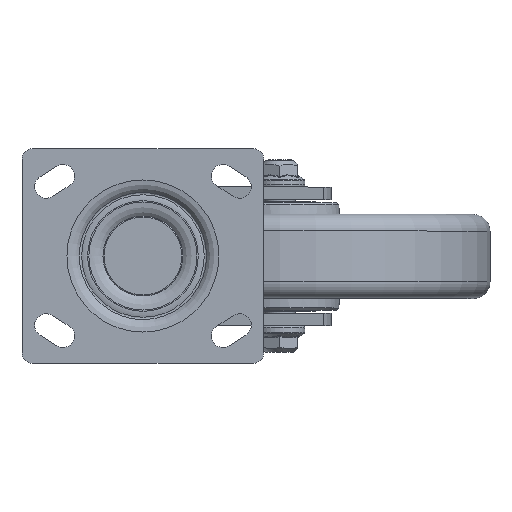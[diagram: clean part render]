
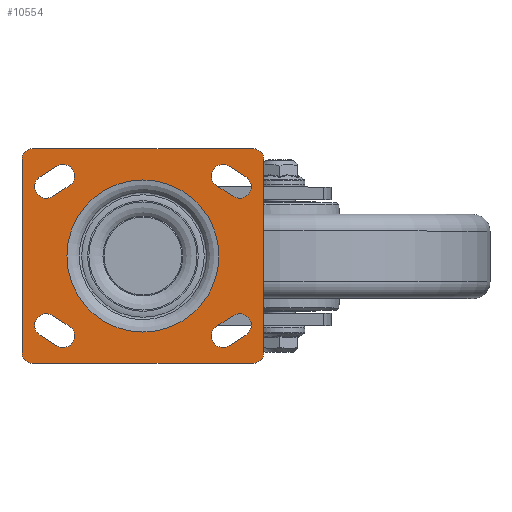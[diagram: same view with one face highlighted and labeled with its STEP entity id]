
A CAD part, top view. The second image highlights one B-rep face of the part: STEP entity #10554.
In plain terms, the highlighted planar face has unit normal (0, 0, 1).
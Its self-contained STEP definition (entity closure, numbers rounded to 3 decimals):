
#9700=CARTESIAN_POINT('',(264.348,-57.896,153.652));
#9701=VERTEX_POINT('',#9700);
#9708=CARTESIAN_POINT('',(159.348,-57.896,153.652));
#9709=VERTEX_POINT('',#9708);
#9710=CARTESIAN_POINT('',(159.348,-57.896,153.652));
#9711=DIRECTION('',(1.0,0.0,0.0));
#9712=VECTOR('',#9711,105.);
#9713=LINE('',#9710,#9712);
#9714=EDGE_CURVE('',#9709,#9701,#9713,.T.);
#9740=CARTESIAN_POINT('',(154.348,-52.896,153.652));
#9741=VERTEX_POINT('',#9740);
#9742=CARTESIAN_POINT('',(159.348,-52.896,153.652));
#9743=DIRECTION('',(0.0,0.0,1.0));
#9744=DIRECTION('',(1.0,0.0,0.0));
#9745=AXIS2_PLACEMENT_3D('',#9742,#9743,#9744);
#9746=CIRCLE('',#9745,5.);
#9747=EDGE_CURVE('',#9741,#9709,#9746,.T.);
#9772=CARTESIAN_POINT('',(154.348,39.104,153.652));
#9773=VERTEX_POINT('',#9772);
#9774=CARTESIAN_POINT('',(154.348,39.104,153.652));
#9775=DIRECTION('',(0.0,-1.0,0.0));
#9776=VECTOR('',#9775,92.);
#9777=LINE('',#9774,#9776);
#9778=EDGE_CURVE('',#9773,#9741,#9777,.T.);
#9804=CARTESIAN_POINT('',(159.348,44.104,153.652));
#9805=VERTEX_POINT('',#9804);
#9806=CARTESIAN_POINT('',(159.348,39.104,153.652));
#9807=DIRECTION('',(0.0,0.0,1.0));
#9808=DIRECTION('',(1.0,0.0,0.0));
#9809=AXIS2_PLACEMENT_3D('',#9806,#9807,#9808);
#9810=CIRCLE('',#9809,5.);
#9811=EDGE_CURVE('',#9805,#9773,#9810,.T.);
#9836=CARTESIAN_POINT('',(264.348,44.104,153.652));
#9837=VERTEX_POINT('',#9836);
#9838=CARTESIAN_POINT('',(264.348,44.104,153.652));
#9839=DIRECTION('',(-1.0,0.0,0.0));
#9840=VECTOR('',#9839,105.);
#9841=LINE('',#9838,#9840);
#9842=EDGE_CURVE('',#9837,#9805,#9841,.T.);
#9868=CARTESIAN_POINT('',(269.348,39.104,153.652));
#9869=VERTEX_POINT('',#9868);
#9870=CARTESIAN_POINT('',(264.348,39.104,153.652));
#9871=DIRECTION('',(0.0,0.0,1.0));
#9872=DIRECTION('',(1.0,0.0,0.0));
#9873=AXIS2_PLACEMENT_3D('',#9870,#9871,#9872);
#9874=CIRCLE('',#9873,5.);
#9875=EDGE_CURVE('',#9869,#9837,#9874,.T.);
#9900=CARTESIAN_POINT('',(269.348,-52.896,153.652));
#9901=VERTEX_POINT('',#9900);
#9902=CARTESIAN_POINT('',(269.348,-52.896,153.652));
#9903=DIRECTION('',(0.0,1.0,0.0));
#9904=VECTOR('',#9903,92.);
#9905=LINE('',#9902,#9904);
#9906=EDGE_CURVE('',#9901,#9869,#9905,.T.);
#9930=CARTESIAN_POINT('',(264.348,-52.896,153.652));
#9931=DIRECTION('',(0.0,0.0,1.0));
#9932=DIRECTION('',(1.0,0.0,0.0));
#9933=AXIS2_PLACEMENT_3D('',#9930,#9931,#9932);
#9934=CIRCLE('',#9933,5.);
#9935=EDGE_CURVE('',#9701,#9901,#9934,.T.);
#9957=CARTESIAN_POINT('',(246.933,-40.232,153.652));
#9958=VERTEX_POINT('',#9957);
#9965=CARTESIAN_POINT('',(252.763,-49.56,153.652));
#9966=VERTEX_POINT('',#9965);
#9967=CARTESIAN_POINT('',(249.848,-44.896,153.652));
#9968=DIRECTION('',(0.0,0.0,-1.0));
#9969=DIRECTION('',(1.0,0.0,0.0));
#9970=AXIS2_PLACEMENT_3D('',#9967,#9968,#9969);
#9971=CIRCLE('',#9970,5.5);
#9972=EDGE_CURVE('',#9966,#9958,#9971,.T.);
#9997=CARTESIAN_POINT('',(260.763,-44.56,153.652));
#9998=VERTEX_POINT('',#9997);
#9999=CARTESIAN_POINT('',(260.763,-44.56,153.652));
#10000=DIRECTION('',(-0.848,-0.53,0.0));
#10001=VECTOR('',#10000,9.434);
#10002=LINE('',#9999,#10001);
#10003=EDGE_CURVE('',#9998,#9966,#10002,.T.);
#10029=CARTESIAN_POINT('',(254.933,-35.232,153.652));
#10030=VERTEX_POINT('',#10029);
#10031=CARTESIAN_POINT('',(257.848,-39.896,153.652));
#10032=DIRECTION('',(0.0,0.0,-1.0));
#10033=DIRECTION('',(1.0,0.0,0.0));
#10034=AXIS2_PLACEMENT_3D('',#10031,#10032,#10033);
#10035=CIRCLE('',#10034,5.5);
#10036=EDGE_CURVE('',#10030,#9998,#10035,.T.);
#10059=CARTESIAN_POINT('',(246.933,-40.232,153.652));
#10060=DIRECTION('',(0.848,0.53,0.));
#10061=VECTOR('',#10060,9.434);
#10062=LINE('',#10059,#10061);
#10063=EDGE_CURVE('',#9958,#10030,#10062,.T.);
#10085=CARTESIAN_POINT('',(176.763,26.44,153.652));
#10086=VERTEX_POINT('',#10085);
#10093=CARTESIAN_POINT('',(170.933,35.768,153.652));
#10094=VERTEX_POINT('',#10093);
#10095=CARTESIAN_POINT('',(173.848,31.104,153.652));
#10096=DIRECTION('',(0.0,0.0,-1.0));
#10097=DIRECTION('',(1.0,0.0,0.0));
#10098=AXIS2_PLACEMENT_3D('',#10095,#10096,#10097);
#10099=CIRCLE('',#10098,5.5);
#10100=EDGE_CURVE('',#10094,#10086,#10099,.T.);
#10125=CARTESIAN_POINT('',(162.933,30.768,153.652));
#10126=VERTEX_POINT('',#10125);
#10127=CARTESIAN_POINT('',(162.933,30.768,153.652));
#10128=DIRECTION('',(0.848,0.53,0.0));
#10129=VECTOR('',#10128,9.434);
#10130=LINE('',#10127,#10129);
#10131=EDGE_CURVE('',#10126,#10094,#10130,.T.);
#10157=CARTESIAN_POINT('',(168.763,21.44,153.652));
#10158=VERTEX_POINT('',#10157);
#10159=CARTESIAN_POINT('',(165.848,26.104,153.652));
#10160=DIRECTION('',(0.0,0.0,-1.0));
#10161=DIRECTION('',(1.0,0.0,0.0));
#10162=AXIS2_PLACEMENT_3D('',#10159,#10160,#10161);
#10163=CIRCLE('',#10162,5.5);
#10164=EDGE_CURVE('',#10158,#10126,#10163,.T.);
#10187=CARTESIAN_POINT('',(176.763,26.44,153.652));
#10188=DIRECTION('',(-0.848,-0.53,0.0));
#10189=VECTOR('',#10188,9.434);
#10190=LINE('',#10187,#10189);
#10191=EDGE_CURVE('',#10086,#10158,#10190,.T.);
#10213=CARTESIAN_POINT('',(170.933,-49.56,153.652));
#10214=VERTEX_POINT('',#10213);
#10221=CARTESIAN_POINT('',(176.763,-40.232,153.652));
#10222=VERTEX_POINT('',#10221);
#10223=CARTESIAN_POINT('',(173.848,-44.896,153.652));
#10224=DIRECTION('',(0.0,0.0,-1.0));
#10225=DIRECTION('',(1.0,0.0,0.0));
#10226=AXIS2_PLACEMENT_3D('',#10223,#10224,#10225);
#10227=CIRCLE('',#10226,5.5);
#10228=EDGE_CURVE('',#10222,#10214,#10227,.T.);
#10253=CARTESIAN_POINT('',(168.763,-35.232,153.652));
#10254=VERTEX_POINT('',#10253);
#10255=CARTESIAN_POINT('',(168.763,-35.232,153.652));
#10256=DIRECTION('',(0.848,-0.53,0.0));
#10257=VECTOR('',#10256,9.434);
#10258=LINE('',#10255,#10257);
#10259=EDGE_CURVE('',#10254,#10222,#10258,.T.);
#10285=CARTESIAN_POINT('',(162.933,-44.56,153.652));
#10286=VERTEX_POINT('',#10285);
#10287=CARTESIAN_POINT('',(165.848,-39.896,153.652));
#10288=DIRECTION('',(0.0,0.0,-1.0));
#10289=DIRECTION('',(1.0,0.0,0.0));
#10290=AXIS2_PLACEMENT_3D('',#10287,#10288,#10289);
#10291=CIRCLE('',#10290,5.5);
#10292=EDGE_CURVE('',#10286,#10254,#10291,.T.);
#10315=CARTESIAN_POINT('',(170.933,-49.56,153.652));
#10316=DIRECTION('',(-0.848,0.53,0.0));
#10317=VECTOR('',#10316,9.434);
#10318=LINE('',#10315,#10317);
#10319=EDGE_CURVE('',#10214,#10286,#10318,.T.);
#10341=CARTESIAN_POINT('',(252.763,35.768,153.652));
#10342=VERTEX_POINT('',#10341);
#10349=CARTESIAN_POINT('',(246.933,26.44,153.652));
#10350=VERTEX_POINT('',#10349);
#10351=CARTESIAN_POINT('',(249.848,31.104,153.652));
#10352=DIRECTION('',(0.0,0.0,-1.0));
#10353=DIRECTION('',(1.0,0.0,0.0));
#10354=AXIS2_PLACEMENT_3D('',#10351,#10352,#10353);
#10355=CIRCLE('',#10354,5.5);
#10356=EDGE_CURVE('',#10350,#10342,#10355,.T.);
#10381=CARTESIAN_POINT('',(254.933,21.44,153.652));
#10382=VERTEX_POINT('',#10381);
#10383=CARTESIAN_POINT('',(254.933,21.44,153.652));
#10384=DIRECTION('',(-0.848,0.53,0.0));
#10385=VECTOR('',#10384,9.434);
#10386=LINE('',#10383,#10385);
#10387=EDGE_CURVE('',#10382,#10350,#10386,.T.);
#10413=CARTESIAN_POINT('',(260.763,30.768,153.652));
#10414=VERTEX_POINT('',#10413);
#10415=CARTESIAN_POINT('',(257.848,26.104,153.652));
#10416=DIRECTION('',(0.0,0.0,-1.0));
#10417=DIRECTION('',(1.0,0.0,0.0));
#10418=AXIS2_PLACEMENT_3D('',#10415,#10416,#10417);
#10419=CIRCLE('',#10418,5.5);
#10420=EDGE_CURVE('',#10414,#10382,#10419,.T.);
#10443=CARTESIAN_POINT('',(252.763,35.768,153.652));
#10444=DIRECTION('',(0.848,-0.53,0.0));
#10445=VECTOR('',#10444,9.434);
#10446=LINE('',#10443,#10445);
#10447=EDGE_CURVE('',#10342,#10414,#10446,.T.);
#10504=CARTESIAN_POINT('',(153.777,-6.896,153.652));
#10505=DIRECTION('',(0.0,0.0,1.0));
#10506=DIRECTION('',(1.0,0.0,0.0));
#10507=AXIS2_PLACEMENT_3D('',#10504,#10505,#10506);
#10508=PLANE('',#10507);
#10509=ORIENTED_EDGE('',*,*,#9842,.T.);
#10510=ORIENTED_EDGE('',*,*,#9811,.T.);
#10511=ORIENTED_EDGE('',*,*,#9778,.T.);
#10512=ORIENTED_EDGE('',*,*,#9747,.T.);
#10513=ORIENTED_EDGE('',*,*,#9714,.T.);
#10514=ORIENTED_EDGE('',*,*,#9935,.T.);
#10515=ORIENTED_EDGE('',*,*,#9906,.T.);
#10516=ORIENTED_EDGE('',*,*,#9875,.T.);
#10517=EDGE_LOOP('',(#10509,#10510,#10511,#10512,#10513,#10514,#10515,#10516));
#10518=FACE_OUTER_BOUND('',#10517,.T.);
#10519=ORIENTED_EDGE('',*,*,#10036,.T.);
#10520=ORIENTED_EDGE('',*,*,#10003,.T.);
#10521=ORIENTED_EDGE('',*,*,#9972,.T.);
#10522=ORIENTED_EDGE('',*,*,#10063,.T.);
#10523=EDGE_LOOP('',(#10519,#10520,#10521,#10522));
#10524=FACE_BOUND('',#10523,.T.);
#10525=ORIENTED_EDGE('',*,*,#10164,.T.);
#10526=ORIENTED_EDGE('',*,*,#10131,.T.);
#10527=ORIENTED_EDGE('',*,*,#10100,.T.);
#10528=ORIENTED_EDGE('',*,*,#10191,.T.);
#10529=EDGE_LOOP('',(#10525,#10526,#10527,#10528));
#10530=FACE_BOUND('',#10529,.T.);
#10531=ORIENTED_EDGE('',*,*,#10292,.T.);
#10532=ORIENTED_EDGE('',*,*,#10259,.T.);
#10533=ORIENTED_EDGE('',*,*,#10228,.T.);
#10534=ORIENTED_EDGE('',*,*,#10319,.T.);
#10535=EDGE_LOOP('',(#10531,#10532,#10533,#10534));
#10536=FACE_BOUND('',#10535,.T.);
#10537=ORIENTED_EDGE('',*,*,#10420,.T.);
#10538=ORIENTED_EDGE('',*,*,#10387,.T.);
#10539=ORIENTED_EDGE('',*,*,#10356,.T.);
#10540=ORIENTED_EDGE('',*,*,#10447,.T.);
#10541=EDGE_LOOP('',(#10537,#10538,#10539,#10540));
#10542=FACE_BOUND('',#10541,.T.);
#10543=CARTESIAN_POINT('',(175.705,-6.896,153.652));
#10544=VERTEX_POINT('',#10543);
#10545=CARTESIAN_POINT('',(211.848,-6.896,153.652));
#10546=DIRECTION('',(0.0,0.0,1.0));
#10547=DIRECTION('',(-1.0,0.0,0.0));
#10548=AXIS2_PLACEMENT_3D('',#10545,#10546,#10547);
#10549=CIRCLE('',#10548,36.143);
#10550=EDGE_CURVE('',#10544,#10544,#10549,.T.);
#10551=ORIENTED_EDGE('',*,*,#10550,.F.);
#10552=EDGE_LOOP('',(#10551));
#10553=FACE_BOUND('',#10552,.T.);
#10554=ADVANCED_FACE('',(#10518,#10524,#10530,#10536,#10542,#10553),#10508,.T.);
